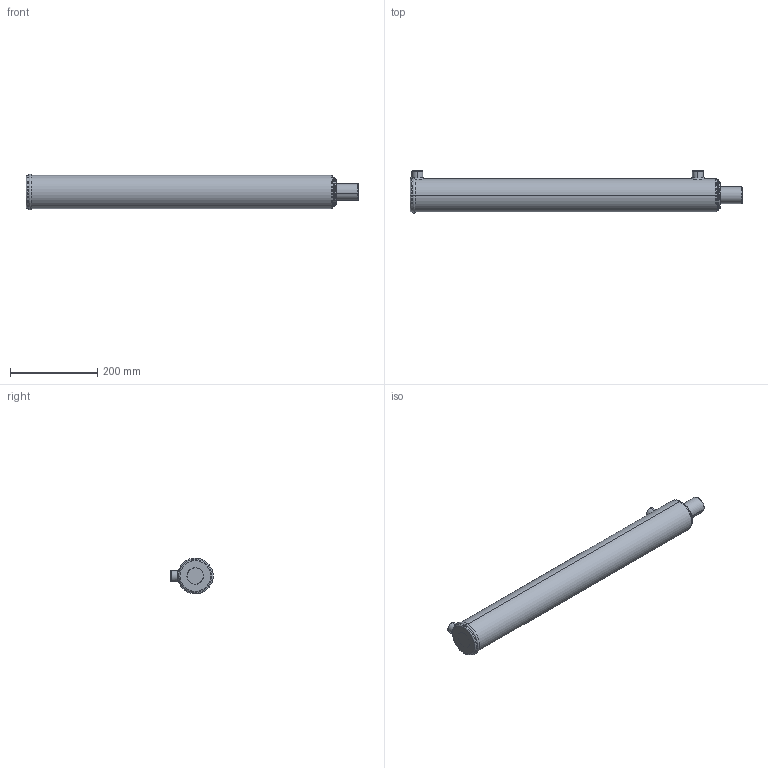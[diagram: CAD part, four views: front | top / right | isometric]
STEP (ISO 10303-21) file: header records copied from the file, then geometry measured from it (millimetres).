
FILE_DESCRIPTION (( 'STEP AP203' ), '1' );
FILE_NAME ('BL250150x610 (24).STEP', '2014-11-25T01:53:23', ( '' ), ( '' ), 'SwSTEP 2.0', 'SolidWorks 2014', '' );
FILE_SCHEMA (( 'CONFIG_CONTROL_DESIGN' ));
Length unit declared in the file: millimetre
Products named in the file (3): BL body 2.5_2.5x24; Spare_2.5x24; BL250150x610 (24)
Assembly tree (2 placements, depth 2):
  BL250150x610 (24)
    BL body 2.5_2.5x24
    Spare_2.5x24
Bounding box: 761 x 97.2 x 82.2 mm (x, y, z)
Volume: 3829933.2 mm3; surface area: 308267.6 mm2
Topology: 2 solids, 2 shells, 88 faces, 205 edges, 126 vertices
Faces by surface type: cylinder 32, plane 20, torus 18, bspline 10, cone 8
Entity records: 5772 total; most frequent: CARTESIAN_POINT 3521, DIRECTION 422, ORIENTED_EDGE 402, EDGE_CURVE 201, AXIS2_PLACEMENT_3D 182, VERTEX_POINT 126, EDGE_LOOP 101, CIRCLE 99
